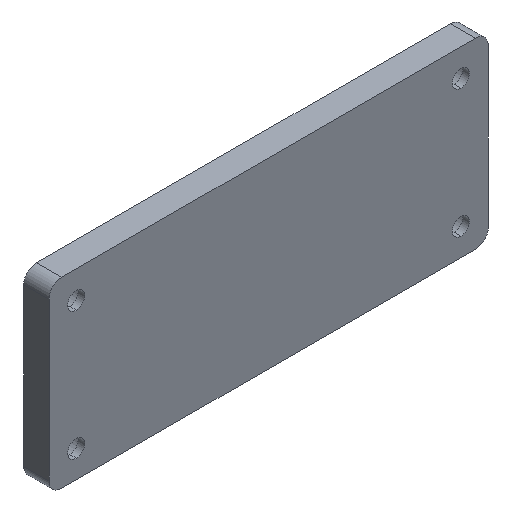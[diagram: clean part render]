
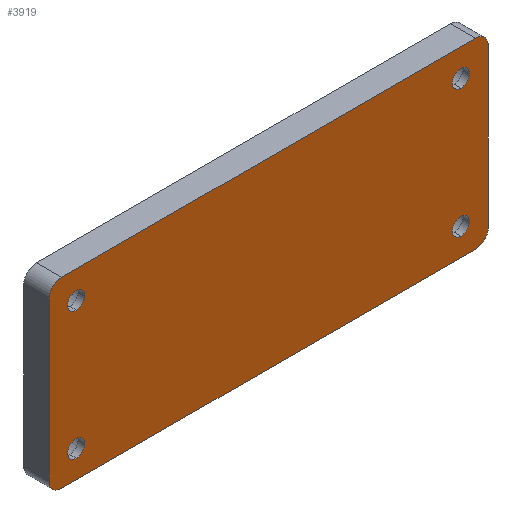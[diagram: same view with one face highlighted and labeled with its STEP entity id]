
A CAD part, isometric view. The second image highlights one B-rep face of the part: STEP entity #3919.
In plain terms, the highlighted planar face has unit normal (0, -1, 0).
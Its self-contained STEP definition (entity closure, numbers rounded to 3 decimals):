
#72 = VERTEX_POINT ( 'NONE', #3338 ) ;
#135 = CARTESIAN_POINT ( 'NONE',  ( -76.2, 0., 25.4 ) ) ;
#151 = LINE ( 'NONE', #7404, #3077 ) ;
#152 = EDGE_CURVE ( 'NONE', #1721, #4590, #972, .T. ) ;
#275 = CIRCLE ( 'NONE', #4603, 5. ) ;
#313 = CARTESIAN_POINT ( 'NONE',  ( 76.2, 0., 25.4 ) ) ;
#350 = AXIS2_PLACEMENT_3D ( 'NONE', #3701, #8358, #5082 ) ;
#363 = CIRCLE ( 'NONE', #2855, 5. ) ;
#469 = ORIENTED_EDGE ( 'NONE', *, *, #3979, .T. ) ;
#589 = AXIS2_PLACEMENT_3D ( 'NONE', #773, #3493, #5509 ) ;
#639 = DIRECTION ( 'NONE',  ( 0., 0., 1. ) ) ;
#681 = ORIENTED_EDGE ( 'NONE', *, *, #4170, .F. ) ;
#718 = EDGE_CURVE ( 'NONE', #8059, #2665, #1688, .T. ) ;
#749 = EDGE_CURVE ( 'NONE', #4182, #1476, #4110, .T. ) ;
#773 = CARTESIAN_POINT ( 'NONE',  ( -82., 0., -31.2 ) ) ;
#793 = AXIS2_PLACEMENT_3D ( 'NONE', #4398, #7005, #3678 ) ;
#800 = VERTEX_POINT ( 'NONE', #8328 ) ;
#812 = VERTEX_POINT ( 'NONE', #3554 ) ;
#864 = DIRECTION ( 'NONE',  ( 0., 1., 0. ) ) ;
#962 = DIRECTION ( 'NONE',  ( -1., 0., 0. ) ) ;
#972 = CIRCLE ( 'NONE', #8506, 3.378 ) ;
#1002 = CIRCLE ( 'NONE', #1290, 3.378 ) ;
#1102 = VECTOR ( 'NONE', #962, 1000. ) ;
#1184 = DIRECTION ( 'NONE',  ( 0., 1., 0. ) ) ;
#1290 = AXIS2_PLACEMENT_3D ( 'NONE', #6634, #2614, #7384 ) ;
#1384 = CIRCLE ( 'NONE', #350, 3.378 ) ;
#1476 = VERTEX_POINT ( 'NONE', #4591 ) ;
#1511 = VECTOR ( 'NONE', #2217, 1000. ) ;
#1515 = CARTESIAN_POINT ( 'NONE',  ( -87., 0., -36.2 ) ) ;
#1552 = DIRECTION ( 'NONE',  ( 0., 0., 1. ) ) ;
#1556 = ORIENTED_EDGE ( 'NONE', *, *, #718, .T. ) ;
#1576 = DIRECTION ( 'NONE',  ( 0., 1., 0. ) ) ;
#1688 = CIRCLE ( 'NONE', #589, 5. ) ;
#1721 = VERTEX_POINT ( 'NONE', #2886 ) ;
#1726 = FACE_BOUND ( 'NONE', #3998, .T. ) ;
#1731 = ORIENTED_EDGE ( 'NONE', *, *, #6202, .F. ) ;
#1811 = ORIENTED_EDGE ( 'NONE', *, *, #7480, .T. ) ;
#1871 = EDGE_LOOP ( 'NONE', ( #7705, #1811 ) ) ;
#1967 = CARTESIAN_POINT ( 'NONE',  ( 0., 0., 0. ) ) ;
#2042 = FACE_BOUND ( 'NONE', #6444, .T. ) ;
#2125 = EDGE_CURVE ( 'NONE', #812, #1476, #7210, .T. ) ;
#2170 = CIRCLE ( 'NONE', #793, 3.378 ) ;
#2217 = DIRECTION ( 'NONE',  ( 0., 0., 1. ) ) ;
#2235 = CARTESIAN_POINT ( 'NONE',  ( 82., 0., -31.2 ) ) ;
#2271 = AXIS2_PLACEMENT_3D ( 'NONE', #1967, #4523, #7069 ) ;
#2559 = CIRCLE ( 'NONE', #5308, 3.378 ) ;
#2614 = DIRECTION ( 'NONE',  ( 0., 1., 0. ) ) ;
#2665 = VERTEX_POINT ( 'NONE', #8619 ) ;
#2673 = ORIENTED_EDGE ( 'NONE', *, *, #7113, .T. ) ;
#2788 = CARTESIAN_POINT ( 'NONE',  ( 87., 0., 36.2 ) ) ;
#2807 = CARTESIAN_POINT ( 'NONE',  ( 76.2, 0., -22.022 ) ) ;
#2855 = AXIS2_PLACEMENT_3D ( 'NONE', #5250, #6609, #639 ) ;
#2858 = VERTEX_POINT ( 'NONE', #3581 ) ;
#2878 = CARTESIAN_POINT ( 'NONE',  ( -82., 0., 36.2 ) ) ;
#2886 = CARTESIAN_POINT ( 'NONE',  ( -76.2, 0., 28.778 ) ) ;
#2924 = CARTESIAN_POINT ( 'NONE',  ( -82., 0., 31.2 ) ) ;
#3077 = VECTOR ( 'NONE', #8158, 1000. ) ;
#3156 = DIRECTION ( 'NONE',  ( 0., 1., 0. ) ) ;
#3230 = VECTOR ( 'NONE', #7346, 1000. ) ;
#3244 = EDGE_CURVE ( 'NONE', #4180, #2858, #275, .T. ) ;
#3251 = VERTEX_POINT ( 'NONE', #2807 ) ;
#3338 = CARTESIAN_POINT ( 'NONE',  ( 76.2, 0., -28.778 ) ) ;
#3414 = LINE ( 'NONE', #7850, #1102 ) ;
#3493 = DIRECTION ( 'NONE',  ( 0., -1., 0. ) ) ;
#3517 = AXIS2_PLACEMENT_3D ( 'NONE', #4580, #1184, #3942 ) ;
#3554 = CARTESIAN_POINT ( 'NONE',  ( 87., 0., 31.2 ) ) ;
#3581 = CARTESIAN_POINT ( 'NONE',  ( -87., 0., 31.2 ) ) ;
#3668 = EDGE_CURVE ( 'NONE', #72, #3251, #2559, .T. ) ;
#3675 = VERTEX_POINT ( 'NONE', #7562 ) ;
#3678 = DIRECTION ( 'NONE',  ( 0., 0., 1. ) ) ;
#3701 = CARTESIAN_POINT ( 'NONE',  ( 76.2, 0., -25.4 ) ) ;
#3764 = ORIENTED_EDGE ( 'NONE', *, *, #5822, .T. ) ;
#3919 = ADVANCED_FACE ( 'NONE', ( #1726, #8617, #2042, #6654, #6860 ), #8397, .F. ) ;
#3942 = DIRECTION ( 'NONE',  ( 0., 0., 1. ) ) ;
#3979 = EDGE_CURVE ( 'NONE', #812, #7466, #363, .T. ) ;
#3998 = EDGE_LOOP ( 'NONE', ( #2673, #3764 ) ) ;
#4110 = CIRCLE ( 'NONE', #8646, 5. ) ;
#4143 = ORIENTED_EDGE ( 'NONE', *, *, #3668, .T. ) ;
#4170 = EDGE_CURVE ( 'NONE', #8059, #2858, #8609, .T. ) ;
#4180 = VERTEX_POINT ( 'NONE', #2878 ) ;
#4182 = VERTEX_POINT ( 'NONE', #4196 ) ;
#4196 = CARTESIAN_POINT ( 'NONE',  ( 82., 0., -36.2 ) ) ;
#4398 = CARTESIAN_POINT ( 'NONE',  ( -76.2, 0., 25.4 ) ) ;
#4523 = DIRECTION ( 'NONE',  ( 0., 1., 0. ) ) ;
#4580 = CARTESIAN_POINT ( 'NONE',  ( 76.2, 0., 25.4 ) ) ;
#4590 = VERTEX_POINT ( 'NONE', #4657 ) ;
#4591 = CARTESIAN_POINT ( 'NONE',  ( 87., 0., -31.2 ) ) ;
#4603 = AXIS2_PLACEMENT_3D ( 'NONE', #2924, #7482, #5609 ) ;
#4657 = CARTESIAN_POINT ( 'NONE',  ( -76.2, 0., 22.022 ) ) ;
#4974 = EDGE_CURVE ( 'NONE', #800, #3675, #6570, .T. ) ;
#5028 = DIRECTION ( 'NONE',  ( 0., 0., 1. ) ) ;
#5029 = ORIENTED_EDGE ( 'NONE', *, *, #2125, .F. ) ;
#5082 = DIRECTION ( 'NONE',  ( 0., 0., 1. ) ) ;
#5250 = CARTESIAN_POINT ( 'NONE',  ( 82., 0., 31.2 ) ) ;
#5308 = AXIS2_PLACEMENT_3D ( 'NONE', #5629, #1576, #1552 ) ;
#5313 = EDGE_CURVE ( 'NONE', #4182, #2665, #3414, .T. ) ;
#5458 = ORIENTED_EDGE ( 'NONE', *, *, #3244, .T. ) ;
#5497 = EDGE_CURVE ( 'NONE', #3675, #800, #1002, .T. ) ;
#5509 = DIRECTION ( 'NONE',  ( 0., 0., 1. ) ) ;
#5609 = DIRECTION ( 'NONE',  ( 0., 0., 1. ) ) ;
#5629 = CARTESIAN_POINT ( 'NONE',  ( 76.2, 0., -25.4 ) ) ;
#5636 = EDGE_LOOP ( 'NONE', ( #681, #1556, #6044, #8173, #5029, #469, #1731, #5458 ) ) ;
#5822 = EDGE_CURVE ( 'NONE', #6265, #8337, #6958, .T. ) ;
#5882 = CARTESIAN_POINT ( 'NONE',  ( -87., 0., -31.2 ) ) ;
#6044 = ORIENTED_EDGE ( 'NONE', *, *, #5313, .F. ) ;
#6202 = EDGE_CURVE ( 'NONE', #4180, #7466, #151, .T. ) ;
#6252 = DIRECTION ( 'NONE',  ( 0., 0., 1. ) ) ;
#6265 = VERTEX_POINT ( 'NONE', #8133 ) ;
#6375 = DIRECTION ( 'NONE',  ( 0., 1., 0. ) ) ;
#6394 = AXIS2_PLACEMENT_3D ( 'NONE', #313, #6375, #5028 ) ;
#6444 = EDGE_LOOP ( 'NONE', ( #7905, #7867 ) ) ;
#6567 = ORIENTED_EDGE ( 'NONE', *, *, #8583, .T. ) ;
#6570 = CIRCLE ( 'NONE', #6918, 3.378 ) ;
#6609 = DIRECTION ( 'NONE',  ( 0., -1., 0. ) ) ;
#6634 = CARTESIAN_POINT ( 'NONE',  ( -76.2, 0., -25.4 ) ) ;
#6654 = FACE_BOUND ( 'NONE', #8102, .T. ) ;
#6799 = CARTESIAN_POINT ( 'NONE',  ( 76.2, 0., 28.778 ) ) ;
#6860 = FACE_OUTER_BOUND ( 'NONE', #5636, .T. ) ;
#6918 = AXIS2_PLACEMENT_3D ( 'NONE', #8559, #3156, #7137 ) ;
#6958 = CIRCLE ( 'NONE', #6394, 3.378 ) ;
#7005 = DIRECTION ( 'NONE',  ( 0., 1., 0. ) ) ;
#7069 = DIRECTION ( 'NONE',  ( 0., 0., 1. ) ) ;
#7113 = EDGE_CURVE ( 'NONE', #8337, #6265, #7204, .T. ) ;
#7137 = DIRECTION ( 'NONE',  ( 0., 0., 1. ) ) ;
#7204 = CIRCLE ( 'NONE', #3517, 3.378 ) ;
#7210 = LINE ( 'NONE', #2788, #3230 ) ;
#7346 = DIRECTION ( 'NONE',  ( 0., 0., -1. ) ) ;
#7384 = DIRECTION ( 'NONE',  ( 0., 0., 1. ) ) ;
#7404 = CARTESIAN_POINT ( 'NONE',  ( -55.375, 0., 36.2 ) ) ;
#7440 = DIRECTION ( 'NONE',  ( 0., 0., 1. ) ) ;
#7466 = VERTEX_POINT ( 'NONE', #8387 ) ;
#7480 = EDGE_CURVE ( 'NONE', #4590, #1721, #2170, .T. ) ;
#7482 = DIRECTION ( 'NONE',  ( 0., -1., 0. ) ) ;
#7562 = CARTESIAN_POINT ( 'NONE',  ( -76.2, 0., -22.022 ) ) ;
#7705 = ORIENTED_EDGE ( 'NONE', *, *, #152, .T. ) ;
#7850 = CARTESIAN_POINT ( 'NONE',  ( -55.375, 0., -36.2 ) ) ;
#7867 = ORIENTED_EDGE ( 'NONE', *, *, #4974, .T. ) ;
#7905 = ORIENTED_EDGE ( 'NONE', *, *, #5497, .T. ) ;
#8059 = VERTEX_POINT ( 'NONE', #5882 ) ;
#8102 = EDGE_LOOP ( 'NONE', ( #6567, #4143 ) ) ;
#8133 = CARTESIAN_POINT ( 'NONE',  ( 76.2, 0., 22.022 ) ) ;
#8158 = DIRECTION ( 'NONE',  ( 1., 0., 0. ) ) ;
#8173 = ORIENTED_EDGE ( 'NONE', *, *, #749, .T. ) ;
#8183 = DIRECTION ( 'NONE',  ( 0., -1., 0. ) ) ;
#8328 = CARTESIAN_POINT ( 'NONE',  ( -76.2, 0., -28.778 ) ) ;
#8337 = VERTEX_POINT ( 'NONE', #6799 ) ;
#8358 = DIRECTION ( 'NONE',  ( 0., 1., 0. ) ) ;
#8387 = CARTESIAN_POINT ( 'NONE',  ( 82., 0., 36.2 ) ) ;
#8397 = PLANE ( 'NONE',  #2271 ) ;
#8506 = AXIS2_PLACEMENT_3D ( 'NONE', #135, #864, #7440 ) ;
#8559 = CARTESIAN_POINT ( 'NONE',  ( -76.2, 0., -25.4 ) ) ;
#8583 = EDGE_CURVE ( 'NONE', #3251, #72, #1384, .T. ) ;
#8609 = LINE ( 'NONE', #1515, #1511 ) ;
#8617 = FACE_BOUND ( 'NONE', #1871, .T. ) ;
#8619 = CARTESIAN_POINT ( 'NONE',  ( -82., 0., -36.2 ) ) ;
#8646 = AXIS2_PLACEMENT_3D ( 'NONE', #2235, #8183, #6252 ) ;
